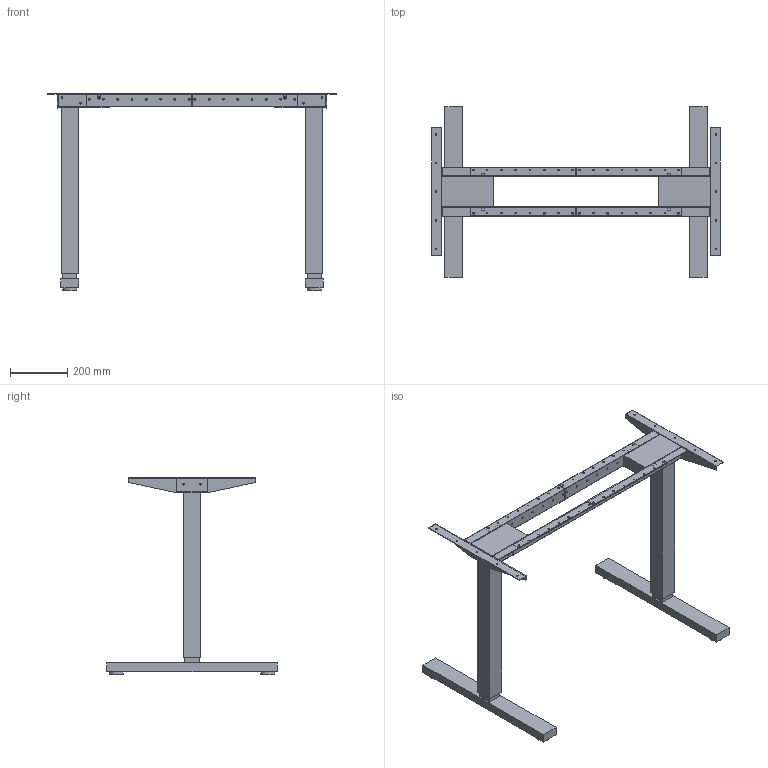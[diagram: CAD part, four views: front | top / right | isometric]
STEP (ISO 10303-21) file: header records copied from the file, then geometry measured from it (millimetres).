
FILE_DESCRIPTION( ( 'STEP AP214' ), '1' );
FILE_NAME( 'D:/Yug/2022/Actiforce_2022/QC/9309793.stp', '2022-03-02T07:41:27', ( '' ), ( '' ), ' ', 'PARTsolutions', ' ' );
FILE_SCHEMA( ( 'AUTOMOTIVE_DESIGN { 1 0 10303 214 1 1 1 1 }' ) );
Length unit declared in the file: millimetre
Products named in the file (6): 9309793(W1010XH600); _foot_sf300_slim_1010_600; _column_sf_300_600; _housing_plate_sf_300_1010; _top_support_sf300_slim; _crossbar_sf_300
Assembly tree (10 placements, depth 2):
  9309793(W1010XH600)
    _foot_sf300_slim_1010_600  x2
    _column_sf_300_600  x2
    _housing_plate_sf_300_1010  x2
    _top_support_sf300_slim  x2
    _crossbar_sf_300  x2
Bounding box: 1010 x 597.22 x 690 mm (x, y, z)
Volume: 9135342.3 mm3; surface area: 1246903.6 mm2
Topology: 10 solids, 10 shells, 280 faces, 742 edges, 492 vertices
Faces by surface type: plane 150, cylinder 130
Full cylindrical faces by diameter (mm): 5 x8, 5.2 x28, 5.5 x10, 6.2 x12, 6.5 x48, 7 x8, 50 x4
Entity records: 5560 total; most frequent: DIRECTION 744, CARTESIAN_POINT 709, ORIENTED_EDGE 624, EDGE_LOOP 314, EDGE_CURVE 312, AXIS2_PLACEMENT_3D 281, VERTEX_POINT 246, FACE_OUTER_BOUND 199
